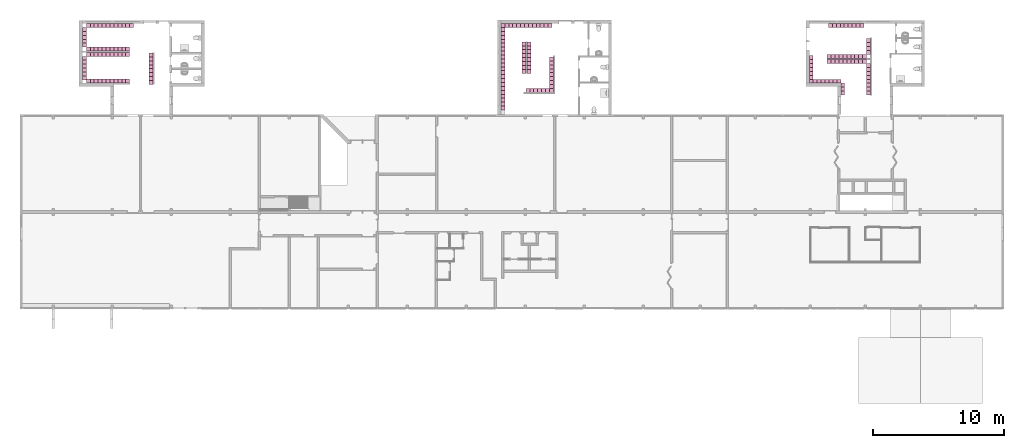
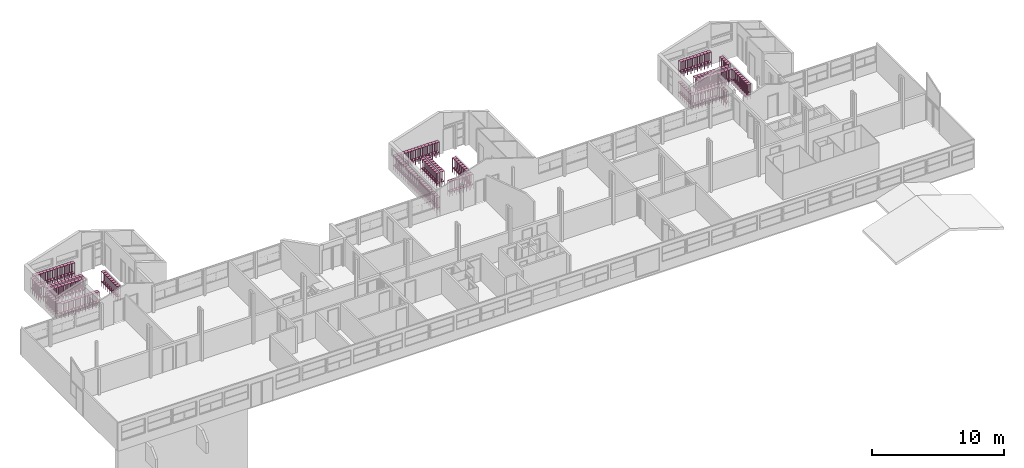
# One storey, part 46 of 48: 187 furnishings.
"""IFC2X3 building model written with IfcOpenShell, lengths in millimetres."""

from ifc_helpers import new_model, entity, si_unit, converted_unit, derived_unit, money_unit, direction, frame, origin_with_axes, place, context, subcontext, project, spatial, faceted_brep, source, transform, mapped, type_object, element, save


model = new_model("IFC2X3")

# Units and contexts
model_context = context("Model", 3, precision=0.01, world=origin_with_axes(), true_north=direction((0.0, 1.0)))
body_context = subcontext(model_context, "Body", "Model", "MODEL_VIEW")
ifc_project = project(units=[si_unit("LENGTHUNIT", "METRE", prefix="MILLI"), si_unit("AREAUNIT", "SQUARE_METRE"), si_unit("VOLUMEUNIT", "CUBIC_METRE"), converted_unit("PLANEANGLEUNIT", "DEGREE", entity("IfcPlaneAngleMeasure", 0.0174532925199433), si_unit("PLANEANGLEUNIT", "RADIAN"), dimensions=[0, 0, 0, 0, 0, 0, 0]), money_unit("USD"), converted_unit("TIMEUNIT", "Year", entity("IfcTimeMeasure", 31557600.0), si_unit("TIMEUNIT", "SECOND"), dimensions=[0, 0, 1, 0, 0, 0, 0]), si_unit("MASSUNIT", "GRAM", prefix="KILO"), si_unit("THERMODYNAMICTEMPERATUREUNIT", "DEGREE_CELSIUS"), si_unit("LUMINOUSINTENSITYUNIT", "LUMEN"), si_unit("ENERGYUNIT", "JOULE", prefix="MEGA"), derived_unit("THERMALCONDUCTANCEUNIT", [(si_unit("POWERUNIT", "WATT"), 1), (si_unit("LENGTHUNIT", "METRE"), -1), (si_unit("THERMODYNAMICTEMPERATUREUNIT", "KELVIN"), -1)]), derived_unit("SPECIFICHEATCAPACITYUNIT", [(si_unit("ENERGYUNIT", "JOULE"), 1), (si_unit("MASSUNIT", "GRAM", prefix="KILO"), -1), (si_unit("THERMODYNAMICTEMPERATUREUNIT", "KELVIN"), -1)]), derived_unit("MASSDENSITYUNIT", [(si_unit("MASSUNIT", "GRAM", prefix="KILO"), 1), (si_unit("VOLUMEUNIT", "CUBIC_METRE"), -1)])], contexts=[model_context])

# Site, building, storey
site_placement = place(None, origin_with_axes())
site = spatial("IfcSite", under=ifc_project, at=site_placement, Name="Site", CompositionType="ELEMENT")
building_placement = place(site_placement, origin_with_axes())
building = spatial("IfcBuilding", under=site, at=building_placement, Name="Building", CompositionType="ELEMENT")
storey_placement = place(building_placement, frame((0.0, 0.0, 3300.0), z_axis=(0.0, 0.0, 1.0), x_axis=(1.0, 0.0, 0.0)))
storey = spatial("IfcBuildingStorey", under=building, at=storey_placement, Name="1 ETG", CompositionType="ELEMENT", Elevation=3300.0)

# Furnishings
furniture_type = type_object("IfcFurnitureType", Name="Bokhylle 02", AssemblyPlace="NOTDEFINED")
shared_shape = source(origin_with_axes(), body_context, "Body", "Brep", [
    faceted_brep([(-30.0, 0.0, 0.0), (-30.0, 30.0, 0.0), (0.0, 30.0, 0.0), (0.0, 0.0, 0.0), (-30.0, 0.0, 1380.0), (-30.0, 30.0, 1380.0), (0.0, 30.0, 1380.0), (0.0, 0.0, 1380.0)], [[[0, 1, 2, 3]], [[0, 4, 5, 1]], [[1, 5, 6, 2]], [[2, 6, 7, 3]], [[3, 7, 4, 0]], [[7, 6, 5, 4]]]),
    faceted_brep([(-300.0000000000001, 0.0, 0.0), (-300.0000000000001, 30.0, 0.0), (-270.0, 30.0, 0.0), (-270.0, 0.0, 0.0), (-300.0000000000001, 0.0, 1380.0), (-300.0000000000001, 30.0, 1380.0), (-270.0, 30.0, 1380.0), (-270.0, 0.0, 1380.0)], [[[0, 1, 2, 3]], [[0, 4, 5, 1]], [[1, 5, 6, 2]], [[2, 6, 7, 3]], [[3, 7, 4, 0]], [[7, 6, 5, 4]]]),
    faceted_brep([(-30.0, 270.000704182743, 0.0), (-30.0, 300.000704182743, 0.0), (0.0, 300.000704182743, 0.0), (0.0, 270.000704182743, 0.0), (-30.0, 270.000704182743, 1380.0), (-30.0, 300.000704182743, 1380.0), (0.0, 300.000704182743, 1380.0), (0.0, 270.000704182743, 1380.0)], [[[0, 1, 2, 3]], [[0, 4, 5, 1]], [[1, 5, 6, 2]], [[2, 6, 7, 3]], [[3, 7, 4, 0]], [[7, 6, 5, 4]]]),
    faceted_brep([(-300.0000000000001, 270.000704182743, 0.0), (-300.0000000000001, 300.000704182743, 0.0), (-270.0, 300.000704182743, 0.0), (-270.0, 270.000704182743, 0.0), (-300.0000000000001, 270.000704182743, 1380.0), (-300.0000000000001, 300.000704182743, 1380.0), (-270.0, 300.000704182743, 1380.0), (-270.0, 270.000704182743, 1380.0)], [[[0, 1, 2, 3]], [[0, 4, 5, 1]], [[1, 5, 6, 2]], [[2, 6, 7, 3]], [[3, 7, 4, 0]], [[7, 6, 5, 4]]]),
    faceted_brep([(-30.0, 30.0, 410.0), (-30.0, 270.000704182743, 410.0), (0.0, 270.000704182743, 410.0), (0.0, 30.0, 410.0), (-30.0, 30.0, 430.0), (-30.0, 270.000704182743, 430.0), (0.0, 270.000704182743, 430.0), (0.0, 30.0, 430.0)], [[[0, 1, 2, 3]], [[0, 4, 5, 1]], [[1, 5, 6, 2]], [[2, 6, 7, 3]], [[3, 7, 4, 0]], [[7, 6, 5, 4]]]),
    faceted_brep([(-300.0000000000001, 30.0, 410.0), (-300.0000000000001, 270.000704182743, 410.0), (-270.0, 270.000704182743, 410.0), (-270.0, 30.0, 410.0), (-300.0000000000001, 30.0, 430.0), (-300.0000000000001, 270.000704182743, 430.0), (-270.0, 270.000704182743, 430.0), (-270.0, 30.0, 430.0)], [[[0, 1, 2, 3]], [[0, 4, 5, 1]], [[1, 5, 6, 2]], [[2, 6, 7, 3]], [[3, 7, 4, 0]], [[7, 6, 5, 4]]]),
    faceted_brep([(-270.0, 0.0, 410.0), (-270.0, 30.0, 410.0), (-30.0, 30.0, 410.0), (-30.0, 0.0, 410.0), (-270.0, 0.0, 430.0), (-270.0, 30.0, 430.0), (-30.0, 30.0, 430.0), (-30.0, 0.0, 430.0)], [[[0, 1, 2, 3]], [[0, 4, 5, 1]], [[1, 5, 6, 2]], [[2, 6, 7, 3]], [[3, 7, 4, 0]], [[7, 6, 5, 4]]]),
    faceted_brep([(-270.0, 270.000704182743, 410.0), (-270.0, 300.000704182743, 410.0), (-30.0, 300.000704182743, 410.0), (-30.0, 270.000704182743, 410.0), (-270.0, 270.000704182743, 430.0), (-270.0, 300.000704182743, 430.0), (-30.0, 300.000704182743, 430.0), (-30.0, 270.000704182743, 430.0)], [[[0, 1, 2, 3]], [[0, 4, 5, 1]], [[1, 5, 6, 2]], [[2, 6, 7, 3]], [[3, 7, 4, 0]], [[7, 6, 5, 4]]]),
    faceted_brep([(-30.0, 30.0, 1360.0), (-30.0, 270.000704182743, 1360.0), (0.0, 270.000704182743, 1360.0), (0.0, 30.0, 1360.0), (-30.0, 30.0, 1380.0), (-30.0, 270.000704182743, 1380.0), (0.0, 270.000704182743, 1380.0), (0.0, 30.0, 1380.0)], [[[0, 1, 2, 3]], [[0, 4, 5, 1]], [[1, 5, 6, 2]], [[2, 6, 7, 3]], [[3, 7, 4, 0]], [[7, 6, 5, 4]]]),
    faceted_brep([(-300.0000000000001, 30.0, 1360.0), (-300.0000000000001, 270.000704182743, 1360.0), (-270.0, 270.000704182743, 1360.0), (-270.0, 30.0, 1360.0), (-300.0000000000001, 30.0, 1380.0), (-300.0000000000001, 270.000704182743, 1380.0), (-270.0, 270.000704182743, 1380.0), (-270.0, 30.0, 1380.0)], [[[0, 1, 2, 3]], [[0, 4, 5, 1]], [[1, 5, 6, 2]], [[2, 6, 7, 3]], [[3, 7, 4, 0]], [[7, 6, 5, 4]]]),
    faceted_brep([(-270.0, 0.0, 1360.0), (-270.0, 30.0, 1360.0), (-30.0, 30.0, 1360.0), (-30.0, 0.0, 1360.0), (-270.0, 0.0, 1380.0), (-270.0, 30.0, 1380.0), (-30.0, 30.0, 1380.0), (-30.0, 0.0, 1380.0)], [[[0, 1, 2, 3]], [[0, 4, 5, 1]], [[1, 5, 6, 2]], [[2, 6, 7, 3]], [[3, 7, 4, 0]], [[7, 6, 5, 4]]]),
    faceted_brep([(-270.0, 270.000704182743, 1360.0), (-270.0, 300.000704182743, 1360.0), (-30.0, 300.000704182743, 1360.0), (-30.0, 270.000704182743, 1360.0), (-270.0, 270.000704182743, 1380.0), (-270.0, 300.000704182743, 1380.0), (-30.0, 300.000704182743, 1380.0), (-30.0, 270.000704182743, 1380.0)], [[[0, 1, 2, 3]], [[0, 4, 5, 1]], [[1, 5, 6, 2]], [[2, 6, 7, 3]], [[3, 7, 4, 0]], [[7, 6, 5, 4]]]),
    faceted_brep([(-300.0, 0.0, 1380.0), (-300.0, 300.000704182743, 1380.0), (0.0, 300.000704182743, 1380.0), (0.0, 0.0, 1380.0), (-300.0, 0.0, 1400.0), (-300.0, 300.000704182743, 1400.0), (0.0, 300.000704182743, 1400.0), (0.0, 0.0, 1400.0)], [[[0, 1, 2, 3]], [[0, 4, 5, 1]], [[1, 5, 6, 2]], [[2, 6, 7, 3]], [[3, 7, 4, 0]], [[7, 6, 5, 4]]]),
    faceted_brep([(0.0, 30.0, 430.0), (0.0, 30.0, 450.0), (-30.0, 30.0, 450.0), (-30.0, 30.0, 430.0), (0.0, 270.000704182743, 430.0), (0.0, 270.000704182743, 450.0), (-30.0, 270.000704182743, 450.0), (-30.0, 300.000704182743, 450.0), (-270.0, 300.000704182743, 450.0), (-270.0, 270.000704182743, 450.0), (-300.0, 270.000704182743, 450.0), (-300.0, 30.0, 450.0), (-270.0, 30.0, 450.0), (-270.0, 0.0, 450.0), (-30.0, 0.0, 450.0), (-30.0, 0.0, 430.0), (-270.0, 0.0, 430.0), (-270.0, 30.0, 430.0), (-300.0, 30.0, 430.0), (-300.0, 270.000704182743, 430.0), (-270.0, 270.000704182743, 430.0), (-270.0, 300.000704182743, 430.0), (-30.0, 300.000704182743, 430.0), (-30.0, 270.000704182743, 430.0)], [[[0, 1, 2, 3]], [[4, 5, 1, 0]], [[1, 5, 6, 7, 8, 9, 10, 11, 12, 13, 14, 2]], [[3, 2, 14, 15]], [[0, 3, 15, 16, 17, 18, 19, 20, 21, 22, 23, 4]], [[23, 6, 5, 4]], [[22, 7, 6, 23]], [[21, 8, 7, 22]], [[20, 9, 8, 21]], [[19, 10, 9, 20]], [[18, 11, 10, 19]], [[17, 12, 11, 18]], [[16, 13, 12, 17]], [[15, 14, 13, 16]]]),
])
for number, where, z_axis, x_axis, name in (
    (1, (59340.01159448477, 25819.83770893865, 0.0), (0.0, 0.0, 1.0), (0.0, -1.0, 0.0), "FU - 001"),
    (2, (62040.01793212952, 27419.83770893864, 0.0), (0.0, 0.0, 1.0), (0.0, -1.0, 0.0), "FU - 001"),
    (3, (60240.01370703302, 25819.83770893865, 0.0), (0.0, 0.0, 1.0), (0.0, -1.0, 0.0), "FU - 001"),
    (4, (59940.01300285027, 25819.83770893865, 0.0), (0.0, 0.0, 1.0), (0.0, -1.0, 0.0), "FU - 001"),
    (5, (7299.999999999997, 25729.85042065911, 0.0), (0.0, 0.0, 1.0), (-1.0, 0.0, 0.0), "FU - 001"),
    (6, (57675.00001747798, 24619.83911730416, 0.0), (0.0, 0.0, 1.0), (0.0, -1.0, 0.0), "FU - 001"),
    (7, (7299.999999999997, 26029.85112484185, 0.0), (0.0, 0.0, 1.0), (-1.0, 0.0, 0.0), "FU - 001"),
    (8, (37250.01692083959, 23619.93971872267, 0.0), (0.0, 0.0, 1.0), (1.0, 0.0, 0.0), "FU - 001"),
    (9, (37550.01692083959, 23619.93971872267, 0.0), (0.0, 0.0, 1.0), (1.0, 0.0, 0.0), "FU - 001"),
    (10, (37850.01692083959, 24819.94042290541, 0.0), (0.0, 0.0, 1.0), (0.0, -1.0, 0.0), "FU - 001"),
    (11, (36950.0169208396, 23619.93971872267, 0.0), (0.0, 0.0, 1.0), (1.0, 0.0, 0.0), "FU - 001"),
    (12, (36150.01708667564, 25674.94046485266, 0.0), (0.0, 0.0, 1.0), (0.0, -1.0, 0.0), "FU - 001"),
    (13, (59640.01229866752, 25819.83770893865, 0.0), (0.0, 0.0, 1.0), (0.0, -1.0, 0.0), "FU - 001"),
    (14, (2225.00070418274, 27374.87497652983, 0.0), (0.0, 0.0, 1.0), (-1.0, 0.0, 0.0), "FU - 001"),
    (15, (7299.999999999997, 25429.84971647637, 0.0), (0.0, 0.0, 1.0), (-1.0, 0.0, 0.0), "FU - 001"),
    (16, (35750.0163824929, 25374.94046485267, 0.0), (0.0, 0.0, 1.0), (0.0, -1.0, 0.0), "FU - 001"),
    (17, (37850.01692083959, 23619.93971872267, 0.0), (0.0, 0.0, 1.0), (1.0, 0.0, 0.0), "FU - 001"),
    (18, (38150.01692083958, 23619.93971872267, 0.0), (0.0, 0.0, 1.0), (1.0, 0.0, 0.0), "FU - 001"),
    (19, (37850.01692083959, 26019.94042290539, 0.0), (0.0, 0.0, 1.0), (0.0, -1.0, 0.0), "FU - 001"),
    (20, (37850.01692083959, 24519.94042290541, 0.0), (0.0, 0.0, 1.0), (0.0, -1.0, 0.0), "FU - 001"),
    (21, (34150.0168990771, 28574.87497035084, 0.0), (0.0, 0.0, 1.0), (0.0, -1.0, 0.0), "FU - 001"),
    (22, (37850.01692083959, 24219.94042290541, 0.0), (0.0, 0.0, 1.0), (0.0, -1.0, 0.0), "FU - 001"),
    (23, (37850.01692083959, 25719.94042290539, 0.0), (0.0, 0.0, 1.0), (0.0, -1.0, 0.0), "FU - 001"),
    (24, (37850.01692083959, 25419.9404229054, 0.0), (0.0, 0.0, 1.0), (0.0, -1.0, 0.0), "FU - 001"),
    (25, (36650.0169208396, 23619.93971872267, 0.0), (0.0, 0.0, 1.0), (1.0, 0.0, 0.0), "FU - 001"),
    (26, (36150.01708667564, 25374.94046485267, 0.0), (0.0, 0.0, 1.0), (0.0, -1.0, 0.0), "FU - 001"),
    (27, (36150.01708667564, 25074.94046485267, 0.0), (0.0, 0.0, 1.0), (0.0, -1.0, 0.0), "FU - 001"),
    (28, (37850.01692083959, 23919.94042290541, 0.0), (0.0, 0.0, 1.0), (0.0, -1.0, 0.0), "FU - 001"),
    (29, (37850.01692083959, 25119.9404229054, 0.0), (0.0, 0.0, 1.0), (0.0, -1.0, 0.0), "FU - 001"),
    (30, (34750.01830744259, 28574.87497035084, 0.0), (0.0, 0.0, 1.0), (0.0, -1.0, 0.0), "FU - 001"),
    (31, (34450.01760325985, 28574.87497035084, 0.0), (0.0, 0.0, 1.0), (0.0, -1.0, 0.0), "FU - 001"),
    (32, (35050.01901162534, 28574.87497035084, 0.0), (0.0, 0.0, 1.0), (0.0, -1.0, 0.0), "FU - 001"),
    (33, (35350.01971580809, 28574.87497035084, 0.0), (0.0, 0.0, 1.0), (0.0, -1.0, 0.0), "FU - 001"),
    (34, (35650.02041999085, 28574.87497035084, 0.0), (0.0, 0.0, 1.0), (0.0, -1.0, 0.0), "FU - 001"),
    (35, (36250.02182835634, 28574.87497035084, 0.0), (0.0, 0.0, 1.0), (0.0, -1.0, 0.0), "FU - 001"),
    (36, (35950.0211241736, 28574.87497035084, 0.0), (0.0, 0.0, 1.0), (0.0, -1.0, 0.0), "FU - 001"),
    (37, (36550.02253253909, 28574.87497035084, 0.0), (0.0, 0.0, 1.0), (0.0, -1.0, 0.0), "FU - 001"),
    (38, (37150.0239409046, 28574.87497035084, 0.0), (0.0, 0.0, 1.0), (0.0, -1.0, 0.0), "FU - 001"),
    (39, (36850.02323672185, 28574.87497035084, 0.0), (0.0, 0.0, 1.0), (0.0, -1.0, 0.0), "FU - 001"),
    (40, (37450.02464508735, 28574.87497035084, 0.0), (0.0, 0.0, 1.0), (0.0, -1.0, 0.0), "FU - 001"),
    (41, (34150.0168990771, 27974.87497035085, 0.0), (0.0, 0.0, 1.0), (0.0, -1.0, 0.0), "FU - 001"),
    (42, (34150.0168990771, 28274.87497035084, 0.0), (0.0, 0.0, 1.0), (0.0, -1.0, 0.0), "FU - 001"),
    (43, (35750.0163824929, 25074.94046485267, 0.0), (0.0, 0.0, 1.0), (0.0, -1.0, 0.0), "FU - 001"),
    (44, (34150.0168990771, 27374.87497035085, 0.0), (0.0, 0.0, 1.0), (0.0, -1.0, 0.0), "FU - 001"),
    (45, (34150.0168990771, 27074.87497035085, 0.0), (0.0, 0.0, 1.0), (0.0, -1.0, 0.0), "FU - 001"),
    (46, (34150.0168990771, 26774.87497035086, 0.0), (0.0, 0.0, 1.0), (0.0, -1.0, 0.0), "FU - 001"),
    (47, (34150.0168990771, 27674.87497035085, 0.0), (0.0, 0.0, 1.0), (0.0, -1.0, 0.0), "FU - 001"),
    (48, (34150.0168990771, 26474.87497035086, 0.0), (0.0, 0.0, 1.0), (0.0, -1.0, 0.0), "FU - 001"),
    (49, (34150.0168990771, 26174.87497035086, 0.0), (0.0, 0.0, 1.0), (0.0, -1.0, 0.0), "FU - 001"),
    (50, (34150.0168990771, 25874.87497035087, 0.0), (0.0, 0.0, 1.0), (0.0, -1.0, 0.0), "FU - 001"),
    (51, (34150.0168990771, 25574.87497035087, 0.0), (0.0, 0.0, 1.0), (0.0, -1.0, 0.0), "FU - 001"),
    (52, (34150.0168990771, 25274.87497035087, 0.0), (0.0, 0.0, 1.0), (0.0, -1.0, 0.0), "FU - 001"),
    (53, (34150.0168990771, 24974.87497035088, 0.0), (0.0, 0.0, 1.0), (0.0, -1.0, 0.0), "FU - 001"),
    (54, (34150.0168990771, 24674.87497035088, 0.0), (0.0, 0.0, 1.0), (0.0, -1.0, 0.0), "FU - 001"),
    (55, (34150.0168990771, 24374.87497035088, 0.0), (0.0, 0.0, 1.0), (0.0, -1.0, 0.0), "FU - 001"),
    (56, (34150.0168990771, 24074.87497035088, 0.0), (0.0, 0.0, 1.0), (0.0, -1.0, 0.0), "FU - 001"),
    (57, (34150.0168990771, 23174.87497035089, 0.0), (0.0, 0.0, 1.0), (0.0, -1.0, 0.0), "FU - 001"),
    (58, (34150.0168990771, 22874.87497035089, 0.0), (0.0, 0.0, 1.0), (0.0, -1.0, 0.0), "FU - 001"),
    (59, (34150.0168990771, 22574.8749703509, 0.0), (0.0, 0.0, 1.0), (0.0, -1.0, 0.0), "FU - 001"),
    (60, (34150.0168990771, 22274.8749703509, 0.0), (0.0, 0.0, 1.0), (0.0, -1.0, 0.0), "FU - 001"),
    (61, (34150.0168990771, 23474.87497035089, 0.0), (0.0, 0.0, 1.0), (0.0, -1.0, 0.0), "FU - 001"),
    (62, (36150.01708667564, 27174.94046485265, 0.0), (0.0, 0.0, 1.0), (0.0, -1.0, 0.0), "FU - 001"),
    (63, (36150.01708667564, 26874.94046485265, 0.0), (0.0, 0.0, 1.0), (0.0, -1.0, 0.0), "FU - 001"),
    (64, (36150.01708667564, 26274.94046485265, 0.0), (0.0, 0.0, 1.0), (0.0, -1.0, 0.0), "FU - 001"),
    (65, (36150.01708667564, 26574.94046485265, 0.0), (0.0, 0.0, 1.0), (0.0, -1.0, 0.0), "FU - 001"),
    (66, (35750.0163824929, 27174.94046485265, 0.0), (0.0, 0.0, 1.0), (0.0, -1.0, 0.0), "FU - 001"),
    (67, (35750.0163824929, 26874.94046485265, 0.0), (0.0, 0.0, 1.0), (0.0, -1.0, 0.0), "FU - 001"),
    (68, (36150.01708667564, 25974.94046485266, 0.0), (0.0, 0.0, 1.0), (0.0, -1.0, 0.0), "FU - 001"),
    (69, (35750.0163824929, 26574.94046485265, 0.0), (0.0, 0.0, 1.0), (0.0, -1.0, 0.0), "FU - 001"),
    (70, (35750.0163824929, 25974.94046485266, 0.0), (0.0, 0.0, 1.0), (0.0, -1.0, 0.0), "FU - 001"),
    (71, (34150.0168990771, 23774.87497035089, 0.0), (0.0, 0.0, 1.0), (0.0, -1.0, 0.0), "FU - 001"),
    (72, (35750.0163824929, 25674.94046485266, 0.0), (0.0, 0.0, 1.0), (0.0, -1.0, 0.0), "FU - 001"),
    (73, (35750.0163824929, 26274.94046485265, 0.0), (0.0, 0.0, 1.0), (0.0, -1.0, 0.0), "FU - 001"),
    (74, (37750.02534927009, 28574.87497035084, 0.0), (0.0, 0.0, 1.0), (0.0, -1.0, 0.0), "FU - 001"),
    (75, (36350.0169208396, 23619.93971872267, 0.0), (0.0, 0.0, 1.0), (1.0, 0.0, 0.0), "FU - 001"),
    (76, (60075.4607657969, 23419.83770893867, 0.0), (0.0, 0.0, 1.0), (0.0, -1.0, 0.0), "FU - 001"),
    (77, (59140.010890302, 28569.83911855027, 0.0), (0.0, 0.0, 1.0), (0.0, -1.0, 0.0), "FU - 001"),
    (78, (59440.01159448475, 28569.83911855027, 0.0), (0.0, 0.0, 1.0), (0.0, -1.0, 0.0), "FU - 001"),
    (79, (59740.01229866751, 28569.83911855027, 0.0), (0.0, 0.0, 1.0), (0.0, -1.0, 0.0), "FU - 001"),
    (80, (60040.01300285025, 28569.83911855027, 0.0), (0.0, 0.0, 1.0), (0.0, -1.0, 0.0), "FU - 001"),
    (81, (60640.01441121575, 28569.83911855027, 0.0), (0.0, 0.0, 1.0), (0.0, -1.0, 0.0), "FU - 001"),
    (82, (60940.0151153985, 28569.83911855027, 0.0), (0.0, 0.0, 1.0), (0.0, -1.0, 0.0), "FU - 001"),
    (83, (61240.01581958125, 28569.83911855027, 0.0), (0.0, 0.0, 1.0), (0.0, -1.0, 0.0), "FU - 001"),
    (84, (7299.999999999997, 26329.8518290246, 0.0), (0.0, 0.0, 1.0), (-1.0, 0.0, 0.0), "FU - 001"),
    (85, (7299.999999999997, 26629.85253320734, 0.0), (0.0, 0.0, 1.0), (-1.0, 0.0, 0.0), "FU - 001"),
    (86, (57675.00001747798, 26119.83911730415, 0.0), (0.0, 0.0, 1.0), (0.0, -1.0, 0.0), "FU - 001"),
    (87, (57675.00001747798, 25819.83911730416, 0.0), (0.0, 0.0, 1.0), (0.0, -1.0, 0.0), "FU - 001"),
    (88, (57675.00001747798, 25519.83911730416, 0.0), (0.0, 0.0, 1.0), (0.0, -1.0, 0.0), "FU - 001"),
    (89, (57675.00001747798, 25219.83911730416, 0.0), (0.0, 0.0, 1.0), (0.0, -1.0, 0.0), "FU - 001"),
    (90, (57675.00001747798, 24319.83911730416, 0.0), (0.0, 0.0, 1.0), (0.0, -1.0, 0.0), "FU - 001"),
    (91, (57975.00072166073, 24319.83911730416, 0.0), (0.0, 0.0, 1.0), (0.0, -1.0, 0.0), "FU - 001"),
    (92, (57675.00001747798, 24919.83911730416, 0.0), (0.0, 0.0, 1.0), (0.0, -1.0, 0.0), "FU - 001"),
    (93, (58275.00142584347, 24319.83911730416, 0.0), (0.0, 0.0, 1.0), (0.0, -1.0, 0.0), "FU - 001"),
    (94, (58575.00213002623, 24319.83911730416, 0.0), (0.0, 0.0, 1.0), (0.0, -1.0, 0.0), "FU - 001"),
    (95, (58875.00283420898, 24319.83911730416, 0.0), (0.0, 0.0, 1.0), (0.0, -1.0, 0.0), "FU - 001"),
    (96, (59775.00494675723, 24319.83911730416, 0.0), (0.0, 0.0, 1.0), (0.0, -1.0, 0.0), "FU - 001"),
    (97, (59175.00353839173, 24319.83911730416, 0.0), (0.0, 0.0, 1.0), (0.0, -1.0, 0.0), "FU - 001"),
    (98, (59475.00424257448, 24319.83911730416, 0.0), (0.0, 0.0, 1.0), (0.0, -1.0, 0.0), "FU - 001"),
    (99, (7299.999999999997, 25129.84901229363, 0.0), (0.0, 0.0, 1.0), (-1.0, 0.0, 0.0), "FU - 001"),
    (100, (62040.01793212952, 27119.83770893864, 0.0), (0.0, 0.0, 1.0), (0.0, -1.0, 0.0), "FU - 001"),
    (101, (62040.01793212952, 26819.83770893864, 0.0), (0.0, 0.0, 1.0), (0.0, -1.0, 0.0), "FU - 001"),
    (102, (62040.01793212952, 26519.83770893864, 0.0), (0.0, 0.0, 1.0), (0.0, -1.0, 0.0), "FU - 001"),
    (103, (59040.01089030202, 25819.83770893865, 0.0), (0.0, 0.0, 1.0), (0.0, -1.0, 0.0), "FU - 001"),
    (104, (61740.01722794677, 26219.83770893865, 0.0), (0.0, 0.0, 1.0), (0.0, -1.0, 0.0), "FU - 001"),
    (105, (62040.01793212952, 25219.83770893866, 0.0), (0.0, 0.0, 1.0), (0.0, -1.0, 0.0), "FU - 001"),
    (106, (62040.01793212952, 24919.83770893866, 0.0), (0.0, 0.0, 1.0), (0.0, -1.0, 0.0), "FU - 001"),
    (107, (62040.01793212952, 24619.83770893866, 0.0), (0.0, 0.0, 1.0), (0.0, -1.0, 0.0), "FU - 001"),
    (108, (62040.01793212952, 25519.83770893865, 0.0), (0.0, 0.0, 1.0), (0.0, -1.0, 0.0), "FU - 001"),
    (109, (62040.01793212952, 24319.83770893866, 0.0), (0.0, 0.0, 1.0), (0.0, -1.0, 0.0), "FU - 001"),
    (110, (62040.01793212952, 23719.83770893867, 0.0), (0.0, 0.0, 1.0), (0.0, -1.0, 0.0), "FU - 001"),
    (111, (62040.01793212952, 24019.83770893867, 0.0), (0.0, 0.0, 1.0), (0.0, -1.0, 0.0), "FU - 001"),
    (112, (62040.01793212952, 23419.83770893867, 0.0), (0.0, 0.0, 1.0), (0.0, -1.0, 0.0), "FU - 001"),
    (113, (61540.016523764, 28569.83911855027, 0.0), (0.0, 0.0, 1.0), (0.0, -1.0, 0.0), "FU - 001"),
    (114, (61140.01581958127, 26219.83770893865, 0.0), (0.0, 0.0, 1.0), (0.0, -1.0, 0.0), "FU - 001"),
    (115, (61440.01652376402, 26219.83770893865, 0.0), (0.0, 0.0, 1.0), (0.0, -1.0, 0.0), "FU - 001"),
    (116, (60840.01511539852, 26219.83770893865, 0.0), (0.0, 0.0, 1.0), (0.0, -1.0, 0.0), "FU - 001"),
    (117, (60240.01370703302, 26219.83770893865, 0.0), (0.0, 0.0, 1.0), (0.0, -1.0, 0.0), "FU - 001"),
    (118, (59940.01300285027, 26219.83770893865, 0.0), (0.0, 0.0, 1.0), (0.0, -1.0, 0.0), "FU - 001"),
    (119, (59640.01229866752, 26219.83770893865, 0.0), (0.0, 0.0, 1.0), (0.0, -1.0, 0.0), "FU - 001"),
    (120, (59340.01159448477, 26219.83770893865, 0.0), (0.0, 0.0, 1.0), (0.0, -1.0, 0.0), "FU - 001"),
    (121, (59040.01089030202, 26219.83770893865, 0.0), (0.0, 0.0, 1.0), (0.0, -1.0, 0.0), "FU - 001"),
    (122, (61740.01722794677, 25819.83770893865, 0.0), (0.0, 0.0, 1.0), (0.0, -1.0, 0.0), "FU - 001"),
    (123, (61440.01652376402, 25819.83770893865, 0.0), (0.0, 0.0, 1.0), (0.0, -1.0, 0.0), "FU - 001"),
    (124, (61140.01581958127, 25819.83770893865, 0.0), (0.0, 0.0, 1.0), (0.0, -1.0, 0.0), "FU - 001"),
    (125, (60840.01511539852, 25819.83770893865, 0.0), (0.0, 0.0, 1.0), (0.0, -1.0, 0.0), "FU - 001"),
    (126, (60540.01441121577, 25819.83770893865, 0.0), (0.0, 0.0, 1.0), (0.0, -1.0, 0.0), "FU - 001"),
    (127, (2525.000704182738, 28574.87497652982, 0.0), (0.0, 0.0, 1.0), (0.0, -1.0, 0.0), "FU - 001"),
    (128, (2825.001408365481, 28574.87497652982, 0.0), (0.0, 0.0, 1.0), (0.0, -1.0, 0.0), "FU - 001"),
    (129, (3125.002112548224, 28574.87497652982, 0.0), (0.0, 0.0, 1.0), (0.0, -1.0, 0.0), "FU - 001"),
    (130, (3425.002816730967, 28574.87497652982, 0.0), (0.0, 0.0, 1.0), (0.0, -1.0, 0.0), "FU - 001"),
    (131, (3725.00352091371, 28574.87497652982, 0.0), (0.0, 0.0, 1.0), (0.0, -1.0, 0.0), "FU - 001"),
    (132, (4025.004225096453, 28574.87497652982, 0.0), (0.0, 0.0, 1.0), (0.0, -1.0, 0.0), "FU - 001"),
    (133, (4325.004929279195, 28574.87497652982, 0.0), (0.0, 0.0, 1.0), (0.0, -1.0, 0.0), "FU - 001"),
    (134, (4625.005633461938, 28574.87497652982, 0.0), (0.0, 0.0, 1.0), (0.0, -1.0, 0.0), "FU - 001"),
    (135, (4925.006337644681, 28574.87497652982, 0.0), (0.0, 0.0, 1.0), (0.0, -1.0, 0.0), "FU - 001"),
    (136, (5225.007041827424, 28574.87497652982, 0.0), (0.0, 0.0, 1.0), (0.0, -1.0, 0.0), "FU - 001"),
    (137, (5525.007746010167, 28574.87497652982, 0.0), (0.0, 0.0, 1.0), (0.0, -1.0, 0.0), "FU - 001"),
    (138, (5825.00845019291, 28574.87497652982, 0.0), (0.0, 0.0, 1.0), (0.0, -1.0, 0.0), "FU - 001"),
    (139, (7299.999295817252, 24229.84760392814, 0.0), (0.0, 0.0, 1.0), (0.0, -1.0, 0.0), "FU - 001"),
    (140, (2224.999999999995, 28274.87497652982, 0.0), (0.0, 0.0, 1.0), (0.0, -1.0, 0.0), "FU - 001"),
    (141, (2224.999999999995, 27974.87497652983, 0.0), (0.0, 0.0, 1.0), (0.0, -1.0, 0.0), "FU - 001"),
    (142, (2224.999999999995, 27674.87497652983, 0.0), (0.0, 0.0, 1.0), (0.0, -1.0, 0.0), "FU - 001"),
    (143, (2224.999999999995, 27374.87497652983, 0.0), (0.0, 0.0, 1.0), (0.0, -1.0, 0.0), "FU - 001"),
    (144, (60540.01441121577, 26219.83770893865, 0.0), (0.0, 0.0, 1.0), (0.0, -1.0, 0.0), "FU - 001"),
    (145, (2525.000704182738, 26774.87497652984, 0.0), (0.0, 0.0, 1.0), (0.0, -1.0, 0.0), "FU - 001"),
    (146, (2525.000704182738, 26374.87497652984, 0.0), (0.0, 0.0, 1.0), (0.0, -1.0, 0.0), "FU - 001"),
    (147, (2224.999999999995, 26074.8742723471, 0.0), (0.0, 0.0, 1.0), (0.0, -1.0, 0.0), "FU - 001"),
    (148, (2224.999999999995, 25774.8742723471, 0.0), (0.0, 0.0, 1.0), (0.0, -1.0, 0.0), "FU - 001"),
    (149, (60075.4607657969, 24019.83841312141, 0.0), (0.0, 0.0, 1.0), (-1.0, 0.0, 0.0), "FU - 001"),
    (150, (2224.999999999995, 25474.8742723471, 0.0), (0.0, 0.0, 1.0), (0.0, -1.0, 0.0), "FU - 001"),
    (151, (2224.999999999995, 25174.8742723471, 0.0), (0.0, 0.0, 1.0), (0.0, -1.0, 0.0), "FU - 001"),
    (152, (2224.999999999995, 24574.87427234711, 0.0), (0.0, 0.0, 1.0), (0.0, -1.0, 0.0), "FU - 001"),
    (153, (2224.999999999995, 24874.87427234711, 0.0), (0.0, 0.0, 1.0), (0.0, -1.0, 0.0), "FU - 001"),
    (154, (2525.000704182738, 24324.87497637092, 0.0), (0.0, 0.0, 1.0), (0.0, -1.0, 0.0), "FU - 001"),
    (155, (2825.001408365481, 24324.87497637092, 0.0), (0.0, 0.0, 1.0), (0.0, -1.0, 0.0), "FU - 001"),
    (156, (3425.002816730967, 24324.87497637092, 0.0), (0.0, 0.0, 1.0), (0.0, -1.0, 0.0), "FU - 001"),
    (157, (3125.002112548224, 24324.87497637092, 0.0), (0.0, 0.0, 1.0), (0.0, -1.0, 0.0), "FU - 001"),
    (158, (60340.013707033, 28569.83911855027, 0.0), (0.0, 0.0, 1.0), (0.0, -1.0, 0.0), "FU - 001"),
    (159, (4325.004929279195, 24324.87497637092, 0.0), (0.0, 0.0, 1.0), (0.0, -1.0, 0.0), "FU - 001"),
    (160, (4025.004225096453, 24324.87497637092, 0.0), (0.0, 0.0, 1.0), (0.0, -1.0, 0.0), "FU - 001"),
    (161, (3725.00352091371, 24324.87497637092, 0.0), (0.0, 0.0, 1.0), (0.0, -1.0, 0.0), "FU - 001"),
    (162, (7299.999999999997, 24829.84830811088, 0.0), (0.0, 0.0, 1.0), (-1.0, 0.0, 0.0), "FU - 001"),
    (163, (5225.005633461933, 24624.87568055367, 0.0), (0.0, 0.0, 1.0), (-1.0, 0.0, 0.0), "FU - 001"),
    (164, (4925.006337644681, 26374.87497652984, 0.0), (0.0, 0.0, 1.0), (0.0, -1.0, 0.0), "FU - 001"),
    (165, (5525.007746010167, 26374.87497652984, 0.0), (0.0, 0.0, 1.0), (0.0, -1.0, 0.0), "FU - 001"),
    (166, (5225.007041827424, 26374.87497652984, 0.0), (0.0, 0.0, 1.0), (0.0, -1.0, 0.0), "FU - 001"),
    (167, (2825.001408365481, 26774.87497652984, 0.0), (0.0, 0.0, 1.0), (0.0, -1.0, 0.0), "FU - 001"),
    (168, (3425.002816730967, 26774.87497652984, 0.0), (0.0, 0.0, 1.0), (0.0, -1.0, 0.0), "FU - 001"),
    (169, (3725.00352091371, 26774.87497652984, 0.0), (0.0, 0.0, 1.0), (0.0, -1.0, 0.0), "FU - 001"),
    (170, (4325.004929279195, 26774.87497652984, 0.0), (0.0, 0.0, 1.0), (0.0, -1.0, 0.0), "FU - 001"),
    (171, (3125.002112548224, 26774.87497652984, 0.0), (0.0, 0.0, 1.0), (0.0, -1.0, 0.0), "FU - 001"),
    (172, (4025.004225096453, 26774.87497652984, 0.0), (0.0, 0.0, 1.0), (0.0, -1.0, 0.0), "FU - 001"),
    (173, (4625.005633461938, 26774.87497652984, 0.0), (0.0, 0.0, 1.0), (0.0, -1.0, 0.0), "FU - 001"),
    (174, (5225.007041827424, 26774.87497652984, 0.0), (0.0, 0.0, 1.0), (0.0, -1.0, 0.0), "FU - 001"),
    (175, (4925.006337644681, 26774.87497652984, 0.0), (0.0, 0.0, 1.0), (0.0, -1.0, 0.0), "FU - 001"),
    (176, (5525.007746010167, 26774.87497652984, 0.0), (0.0, 0.0, 1.0), (0.0, -1.0, 0.0), "FU - 001"),
    (177, (2825.001408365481, 26374.87497652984, 0.0), (0.0, 0.0, 1.0), (0.0, -1.0, 0.0), "FU - 001"),
    (178, (60075.4607657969, 24319.83911730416, 0.0), (0.0, 0.0, 1.0), (-1.0, 0.0, 0.0), "FU - 001"),
    (179, (3125.002112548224, 26374.87497652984, 0.0), (0.0, 0.0, 1.0), (0.0, -1.0, 0.0), "FU - 001"),
    (180, (4025.004225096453, 26374.87497652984, 0.0), (0.0, 0.0, 1.0), (0.0, -1.0, 0.0), "FU - 001"),
    (181, (4325.004929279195, 26374.87497652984, 0.0), (0.0, 0.0, 1.0), (0.0, -1.0, 0.0), "FU - 001"),
    (182, (4625.005633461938, 26374.87497652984, 0.0), (0.0, 0.0, 1.0), (0.0, -1.0, 0.0), "FU - 001"),
    (183, (3425.002816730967, 26374.87497652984, 0.0), (0.0, 0.0, 1.0), (0.0, -1.0, 0.0), "FU - 001"),
    (184, (3725.00352091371, 26374.87497652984, 0.0), (0.0, 0.0, 1.0), (0.0, -1.0, 0.0), "FU - 001"),
    (185, (5525.00563346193, 24624.87568055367, 0.0), (0.0, 0.0, 1.0), (-1.0, 0.0, 0.0), "FU - 001"),
    (186, (4925.005633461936, 24624.87568055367, 0.0), (0.0, 0.0, 1.0), (-1.0, 0.0, 0.0), "FU - 001"),
    (187, (4625.005633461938, 24624.87568055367, 0.0), (0.0, 0.0, 1.0), (-1.0, 0.0, 0.0), "FU - 001"),
):
    element("IfcFurnishingElement", number, at=place(storey_placement, frame(where, z_axis=z_axis, x_axis=x_axis)), inside=storey, type_object=furniture_type, Name=name, context=body_context, shape_type="MappedRepresentation", body=[
        mapped(shared_shape, transform((0.0, 0.0, 0.0))),
    ])

save(model, "model.ifc")
